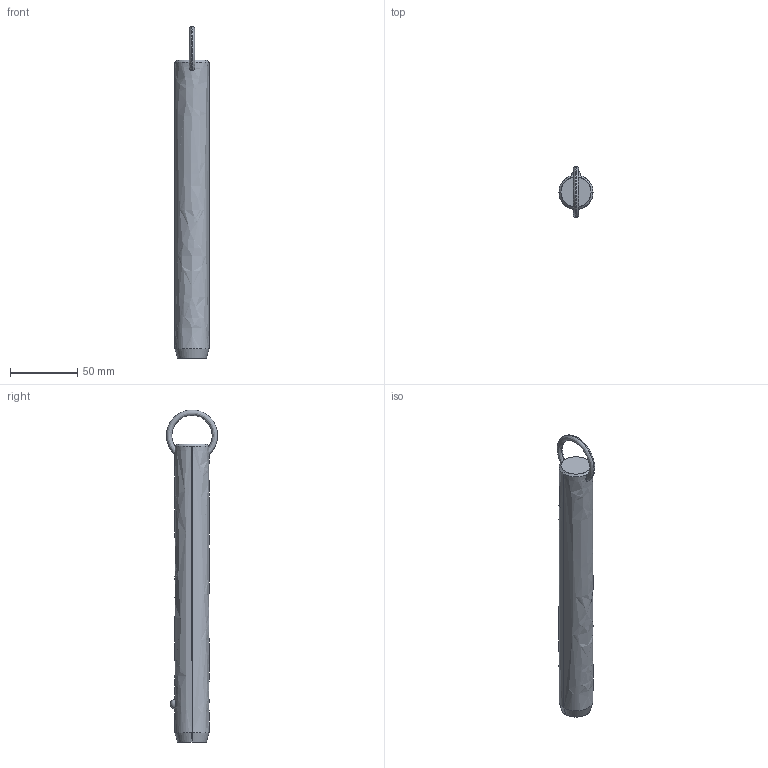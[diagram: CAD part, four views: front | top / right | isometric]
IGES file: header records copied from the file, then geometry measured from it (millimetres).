
Start section: SolidWorks IGES file using analytic representation for surfaces
Global section: file name: C:\Users\liam_\OneDrive\Documents\WORK\Work for WixRoyd\Job Files\J-00019 - Matt Davis CAD Checking\04. CAD Drawings\automotion20190605\P1250.2_v2\P1250.2_v2_20190729_IGES\P1250.100-700.igs; native system: SolidWorks 2017; preprocessor: SolidWorks 2017; author: liam_; date: 190730.174839; units: millimetre
Bounding box: 25.4 x 38.08 x 247.6 mm (x, y, z)
Surface area: 19504.1 mm2 (no closed solid volume)
Topology: 0 solids, 0 shells, 12 faces, 298 edges, 296 vertices
Faces by surface type: revolution 8, bspline 4
